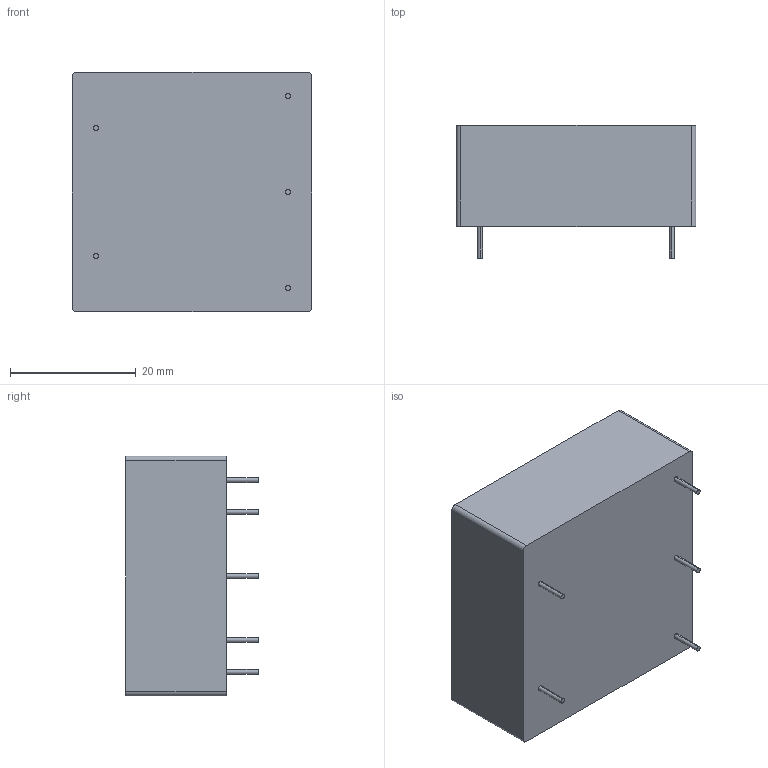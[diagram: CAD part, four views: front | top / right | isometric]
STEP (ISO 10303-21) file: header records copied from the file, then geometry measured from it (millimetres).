
FILE_DESCRIPTION (( 'STEP AP214' ), '1' );
FILE_NAME ('G25CT-G60CT.STEP', '2017-10-17T21:15:16', ( '' ), ( '' ), 'SwSTEP 2.0', 'SolidWorks 2017', '' );
FILE_SCHEMA (( 'AUTOMOTIVE_DESIGN' ));
Length unit declared in the file: inch
Products named in the file (1): G25CT-G60CT
Bounding box: 38.1 x 21.08 x 38.1 mm (x, y, z)
Volume: 23233.1 mm3; surface area: 5382.8 mm2
Topology: 1 solids, 1 shells, 25 faces, 54 edges, 36 vertices
Faces by surface type: cylinder 14, plane 11
Entity records: 866 total; most frequent: DIRECTION 134, CARTESIAN_POINT 116, ORIENTED_EDGE 108, AXIS2_PLACEMENT_3D 54, EDGE_CURVE 54, VERTEX_POINT 36, EDGE_LOOP 30, CIRCLE 28
